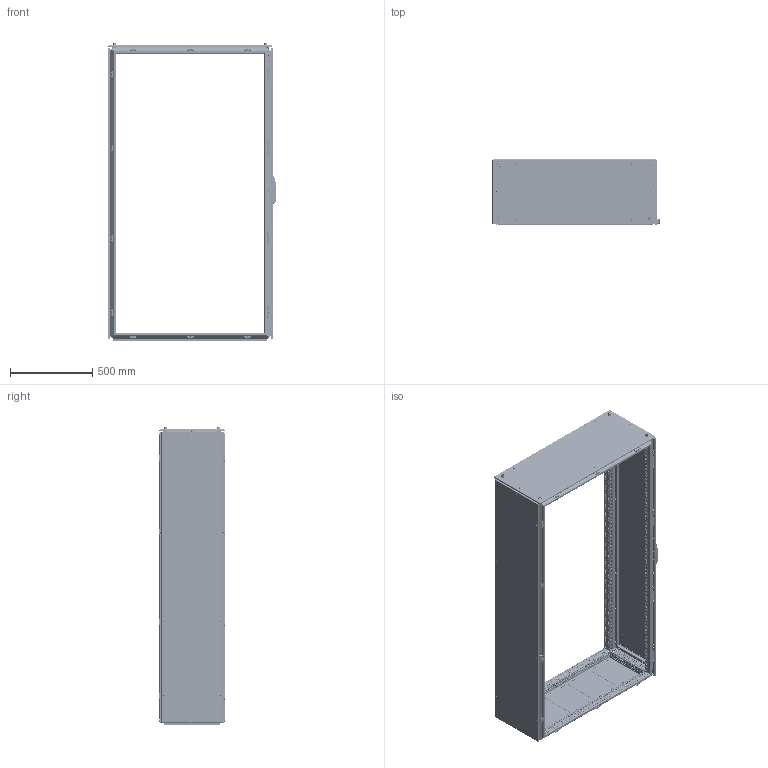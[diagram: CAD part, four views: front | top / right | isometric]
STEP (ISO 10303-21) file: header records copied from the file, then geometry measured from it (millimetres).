
FILE_DESCRIPTION(('STEP AP203'), '1');
FILE_NAME('ØÍÑ ÊÑ PRO II Êîðïóñ ÑÁ', '', ('UNSPECIFIED'), ('UNSPECIFIED'), 'C3D Converter', 'C3D Toolkit', '');
FILE_SCHEMA(('CONFIG_CONTROL_DESIGN'));
Length unit declared in the file: millimetre
Products named in the file (50): 3110.180.40.100; 3000; 3007.175; 3007.75; 3007.200; 3009.04; 3009.04.01; 3009.04.2; 3009.04.01.2; 3301; 3310; 3311; 3302; 3211; 3410; 3420; 3421; 3422.01; 3412; 3411; 2952; 3009.05; 3009.05.01; 3622.01; 3009.08; 3009.08.01
Assembly tree (297 placements, depth 5):
  3110.180.40.100
    3000
      3000
      (unnamed)  x88
      3007.175
      (unnamed)  x18
      3007.75
      3007.200  x3
      3009.04  x8
        3009.04.01
        (unnamed)
        (unnamed)
      3009.04.2  x15
        3009.04.01.2
        (unnamed)
        (unnamed)
    3301
      3310
        3311
        (unnamed)
      (unnamed)  x8
      (unnamed)  x8
      (unnamed)  x4
      (unnamed)  x4
    3302
      3211
      (unnamed)  x2
      (unnamed)  x10
    3410
      3420
        3421
        3422.01  x4
        (unnamed)  x12
        (unnamed)  x8
        (unnamed)  x2
      3412  x2
      3411  x2
      (unnamed)  x4
      (unnamed)  x12
      (unnamed)  x20
      (unnamed)  x8
      2952
        (unnamed)
          (unnamed)
          (unnamed)
          (unnamed)
          (unnamed)
          (unnamed)
      (unnamed)  x2
      3009.05  x4
        3009.05.01
        (unnamed)
        (unnamed)
      3622.01  x4
      (unnamed)  x4
      3009.08  x4
        3009.08.01
        (unnamed)
        (unnamed)
Bounding box: 1024.04 x 397.07 x 1816 mm (x, y, z)
Volume: 7715632.6 mm3; surface area: 9771645.6 mm2
Topology: 400 solids, 400 shells, 22100 faces, 60394 edges, 39676 vertices
Faces by surface type: plane 14899, cylinder 5352, cone 1185, torus 374, bspline 263, sphere 27
Full cylindrical faces by diameter (mm): 0.5 x20, 4.134 x134, 4.3 x2, 4.5 x1986, 4.8 x18, 4.917 x20, 5 x176, 5.2 x1, 5.5 x8, 5.8 x46, 6 x47, 6.1 x4, 6.6 x20, 6.75 x20, 6.8 x176, 7 x96, 7.3 x20, 7.5 x74, 8 x106, 8.3 x16, 8.5 x9, 9.2 x74, 10 x29, 10.106 x8, 10.5 x4, 11.5 x10, 12 x28, 13 x1, 13.5 x4, 14 x8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
Entity records: 457610 total; most frequent: CARTESIAN_POINT 100502, ORIENTED_EDGE 68260, DIRECTION 64938, EDGE_CURVE 34130, LINE 26894, VECTOR 26894, VERTEX_POINT 23873, EDGE_LOOP 22821
